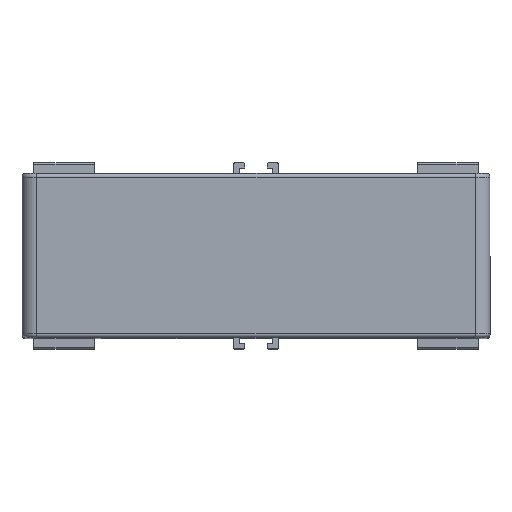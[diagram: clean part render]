
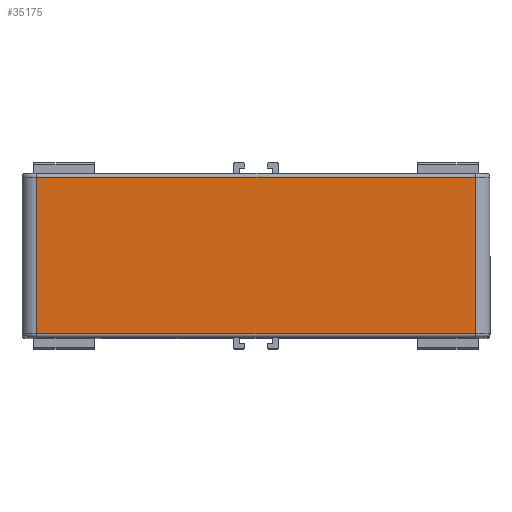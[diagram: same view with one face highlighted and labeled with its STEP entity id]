
A CAD part, top view. The second image highlights one B-rep face of the part: STEP entity #35175.
In plain terms, the highlighted planar face has unit normal (0, 0, 1).
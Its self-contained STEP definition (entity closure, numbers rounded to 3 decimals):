
#2360 = EDGE_CURVE ( 'NONE', #43330, #49763, #15473, .T. ) ;
#2410 = DIRECTION ( 'NONE',  ( 0., -1., 0. ) ) ;
#2669 = FACE_OUTER_BOUND ( 'NONE', #30419, .T. ) ;
#5785 = CARTESIAN_POINT ( 'NONE',  ( 44.171, 67.664, 105.35 ) ) ;
#7680 = DIRECTION ( 'NONE',  ( 0., -1., 0. ) ) ;
#11354 = VECTOR ( 'NONE', #7680, 1000. ) ;
#14132 = CARTESIAN_POINT ( 'NONE',  ( 44.171, 282.528, 105.35 ) ) ;
#14202 = ORIENTED_EDGE ( 'NONE', *, *, #2360, .T. ) ;
#14241 = PLANE ( 'NONE',  #28039 ) ;
#14268 = VECTOR ( 'NONE', #37705, 1000. ) ;
#15473 = LINE ( 'NONE', #31889, #38063 ) ;
#16306 = CARTESIAN_POINT ( 'NONE',  ( 44.171, 110.564, 105.35 ) ) ;
#16671 = EDGE_CURVE ( 'NONE', #39154, #43330, #48088, .T. ) ;
#17604 = EDGE_CURVE ( 'NONE', #24482, #39154, #24897, .T. ) ;
#18002 = ORIENTED_EDGE ( 'NONE', *, *, #16671, .T. ) ;
#18202 = DIRECTION ( 'NONE',  ( 0., 0., -1. ) ) ;
#21490 = ORIENTED_EDGE ( 'NONE', *, *, #24000, .T. ) ;
#22837 = CARTESIAN_POINT ( 'NONE',  ( -75.829, 110.564, 105.35 ) ) ;
#24000 = EDGE_CURVE ( 'NONE', #49763, #24482, #28856, .T. ) ;
#24482 = VERTEX_POINT ( 'NONE', #48442 ) ;
#24897 = LINE ( 'NONE', #5785, #14268 ) ;
#26273 = CARTESIAN_POINT ( 'NONE',  ( -79.829, 282.528, 105.35 ) ) ;
#28039 = AXIS2_PLACEMENT_3D ( 'NONE', #26273, #18202, #2410 ) ;
#28856 = LINE ( 'NONE', #31573, #11354 ) ;
#30419 = EDGE_LOOP ( 'NONE', ( #21490, #48902, #18002, #14202 ) ) ;
#31573 = CARTESIAN_POINT ( 'NONE',  ( -75.829, 282.528, 105.35 ) ) ;
#31889 = CARTESIAN_POINT ( 'NONE',  ( -75.829, 110.564, 105.35 ) ) ;
#35175 = ADVANCED_FACE ( 'NONE', ( #2669 ), #14241, .F. ) ;
#36426 = DIRECTION ( 'NONE',  ( -1., 0., 0. ) ) ;
#37474 = VECTOR ( 'NONE', #42054, 1000. ) ;
#37705 = DIRECTION ( 'NONE',  ( 1., 0., 0. ) ) ;
#38063 = VECTOR ( 'NONE', #36426, 1000. ) ;
#39154 = VERTEX_POINT ( 'NONE', #41685 ) ;
#41685 = CARTESIAN_POINT ( 'NONE',  ( 44.171, 67.664, 105.35 ) ) ;
#42054 = DIRECTION ( 'NONE',  ( 0., 1., 0. ) ) ;
#43330 = VERTEX_POINT ( 'NONE', #16306 ) ;
#48088 = LINE ( 'NONE', #14132, #37474 ) ;
#48442 = CARTESIAN_POINT ( 'NONE',  ( -75.829, 67.664, 105.35 ) ) ;
#48902 = ORIENTED_EDGE ( 'NONE', *, *, #17604, .T. ) ;
#49763 = VERTEX_POINT ( 'NONE', #22837 ) ;
